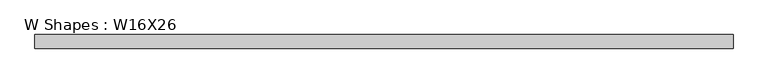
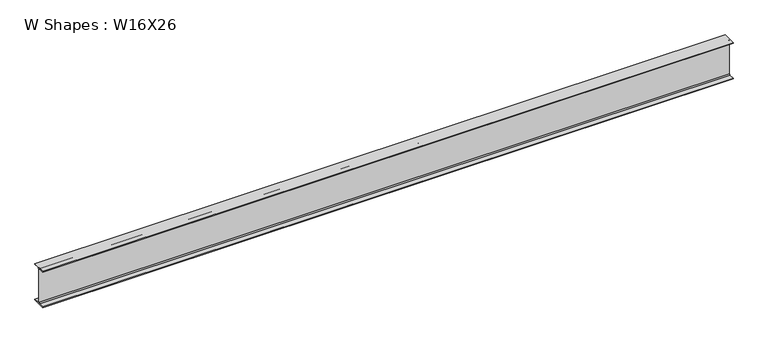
"""IFC4 building model written with IfcOpenShell, lengths in millimetres: beam geometry, W Shapes : W16X26."""

import ifcopenshell
import ifcopenshell.guid

model = None  # the IFC model being written
_history = None  # IfcOwnerHistory: only IFC2X3 demands one
_inside = {}  # id of a spatial element -> (the spatial element, [elements in it])
_under = {}  # id of a project, library or spatial element -> (it, [spatial elements below it])
_declared = {}  # id of a project -> (the project, [libraries it declares])
_typed = {}  # id of a type object -> (the type object, [elements of that type])
_made_of = {}  # id of a material, layer set ... -> (it, [elements and type objects made of it])


def new_model(schema):
    """Start an empty IFC model of exactly this schema.

    Asked for "IFC4X3", IfcOpenShell would pick the latest addendum, in which some entities
    have other attributes; the version numbers below select the first issue.
    IFC2X3 requires an IfcOwnerHistory on every rooted entity: one is made here for all.
    """
    global model, _history
    if schema == "IFC4X3":
        model = ifcopenshell.file(schema_version=(4, 3, 0, 0))
    else:
        model = ifcopenshell.file(schema=schema)
    _inside.clear()
    _under.clear()
    _declared.clear()
    _typed.clear()
    _made_of.clear()
    _history = None
    if model.schema == "IFC2X3":
        org = make("IfcOrganization", Name="unknown")
        user = make(
            "IfcPersonAndOrganization",
            ThePerson=make("IfcPerson", FamilyName="unknown"),
            TheOrganization=org,
        )
        app = make(
            "IfcApplication",
            ApplicationDeveloper=org,
            Version="unknown",
            ApplicationFullName="unknown",
            ApplicationIdentifier="unknown",
        )
        _history = make(
            "IfcOwnerHistory",
            OwningUser=user,
            OwningApplication=app,
            ChangeAction="ADDED",
            CreationDate=0,
        )
    return model


def make(cls, **values):
    """One entity of the class cls with the attributes given. An attribute that is None is left unset."""
    return model.create_entity(
        cls, **{name: value for name, value in values.items() if value is not None}
    )


def rooted(cls, **values):
    """An entity with a GlobalId (a new one), such as an element, a storey or a relation."""
    return make(cls, GlobalId=ifcopenshell.guid.new(), OwnerHistory=_history, **values)


def si_unit(unit_type, name, prefix=None):
    """IfcSIUnit, for example si_unit("LENGTHUNIT", "METRE", prefix="MILLI")."""
    return make("IfcSIUnit", UnitType=unit_type, Prefix=prefix, Name=name)


def assignment(units):
    """IfcUnitAssignment: the units of a project."""
    return None if units is None else make("IfcUnitAssignment", Units=units)


def point(xyz):
    """IfcCartesianPoint."""
    return None if xyz is None else make("IfcCartesianPoint", Coordinates=xyz)


def direction(xyz):
    """IfcDirection."""
    return None if xyz is None else make("IfcDirection", DirectionRatios=xyz)


def frame(location, z_axis=None, x_axis=None):
    """IfcAxis2Placement3D, a coordinate frame: its origin and axes. An axis left out is left unset."""
    return make(
        "IfcAxis2Placement3D",
        Location=point(location),
        Axis=direction(z_axis),
        RefDirection=direction(x_axis),
    )


def frame_2d(location, x_axis=None):
    """IfcAxis2Placement2D, a coordinate frame in the plane: its origin and x axis."""
    return make(
        "IfcAxis2Placement2D", Location=point(location), RefDirection=direction(x_axis)
    )


def origin():
    """The frame at (0, 0, 0) with its axes left unset."""
    return frame((0.0, 0.0, 0.0))


def place(relative_to, where):
    """IfcLocalPlacement: puts the frame where relative to a parent placement (None: the world)."""
    return make(
        "IfcLocalPlacement", PlacementRelTo=relative_to, RelativePlacement=where
    )


def context(
    kind, dimensions, precision=None, world=None, true_north=None, identifier=None
):
    """IfcGeometricRepresentationContext, for example the 3D "Model" context."""
    return make(
        "IfcGeometricRepresentationContext",
        ContextIdentifier=identifier,
        ContextType=kind,
        CoordinateSpaceDimension=dimensions,
        Precision=precision,
        WorldCoordinateSystem=world,
        TrueNorth=true_north,
    )


def project(units=None, contexts=None):
    """IfcProject with its units and contexts."""
    return rooted(
        "IfcProject",
        Name="project",
        RepresentationContexts=contexts,
        UnitsInContext=assignment(units),
    )


def spatial(cls, under=None, at=None, **own):
    """A site, building, storey or space (cls), placed at a placement, below another one or the project."""
    s = rooted(cls, ObjectPlacement=at, **own)
    if under is not None:
        _under.setdefault(under.id(), (under, []))[1].append(s)
    return s


def polyline(points):
    """IfcPolyline through the points."""
    return make("IfcPolyline", Points=[point(p) for p in points])


def circle_curve(where, radius):
    """IfcCircle in the frame where."""
    return make("IfcCircle", Position=where, Radius=radius)


def trimmed(basis, trim1, trim2, sense, master):
    """IfcTrimmedCurve: the piece of a basis curve between two trims."""
    return make(
        "IfcTrimmedCurve",
        BasisCurve=basis,
        Trim1=trim1,
        Trim2=trim2,
        SenseAgreement=sense,
        MasterRepresentation=master,
    )


def segment(curve, same_sense, transition):
    """IfcCompositeCurveSegment."""
    return make(
        "IfcCompositeCurveSegment",
        Transition=transition,
        SameSense=same_sense,
        ParentCurve=curve,
    )


def composite_curve(segments, self_intersect=None):
    """IfcCompositeCurve: segments joined end to end."""
    return make("IfcCompositeCurve", Segments=segments, SelfIntersect=self_intersect)


def outline(outer, holes=None, kind="AREA"):
    """IfcArbitraryClosedProfileDef: a profile drawn as a closed curve; with holes, ...WithVoids."""
    if holes is None:
        return make("IfcArbitraryClosedProfileDef", ProfileType=kind, OuterCurve=outer)
    return make(
        "IfcArbitraryProfileDefWithVoids",
        ProfileType=kind,
        OuterCurve=outer,
        InnerCurves=holes,
    )


def extrude(swept, where, along, depth):
    """IfcExtrudedAreaSolid: the profile swept, set in the frame where, extruded along a direction by depth."""
    return make(
        "IfcExtrudedAreaSolid",
        SweptArea=swept,
        Position=where,
        ExtrudedDirection=direction(along),
        Depth=depth,
    )


def shape(context_of_items, identifier, shape_type, items):
    """IfcShapeRepresentation: the items that make up one representation, for example the "Body"."""
    return make(
        "IfcShapeRepresentation",
        ContextOfItems=context_of_items,
        RepresentationIdentifier=identifier,
        RepresentationType=shape_type,
        Items=items,
    )


def source(mapping_origin, context_of_items, identifier, shape_type, items):
    """IfcRepresentationMap: a shape defined once, which mapped items show again and again."""
    return make(
        "IfcRepresentationMap",
        MappingOrigin=mapping_origin,
        MappedRepresentation=shape(context_of_items, identifier, shape_type, items),
    )


def transform(
    local_origin,
    x_axis=None,
    y_axis=None,
    z_axis=None,
    scale=None,
    scale2=None,
    scale3=None,
    uniform=True,
):
    """IfcCartesianTransformationOperator3D, or its non-uniform kind. x_axis, y_axis, z_axis: its Axis1, 2, 3."""
    if uniform:
        return make(
            "IfcCartesianTransformationOperator3D",
            Axis1=direction(x_axis),
            Axis2=direction(y_axis),
            LocalOrigin=point(local_origin),
            Scale=scale,
            Axis3=direction(z_axis),
        )
    return make(
        "IfcCartesianTransformationOperator3DnonUniform",
        Axis1=direction(x_axis),
        Axis2=direction(y_axis),
        LocalOrigin=point(local_origin),
        Scale=scale,
        Axis3=direction(z_axis),
        Scale2=scale2,
        Scale3=scale3,
    )


def mapped(mapping_source, mapping_target):
    """IfcMappedItem: shows the shape of a source again, moved by a transform."""
    return make(
        "IfcMappedItem", MappingSource=mapping_source, MappingTarget=mapping_target
    )


def made_of(thing, what):
    """Note that an element or type object is made of a material, layer set ...; save() writes the relation."""
    if what is not None:
        _made_of.setdefault(what.id(), (what, []))[1].append(thing)
    return thing


def element(
    cls,
    number,
    at=None,
    inside=None,
    cuts=None,
    type_object=None,
    material=None,
    context=None,
    identifier="Body",
    shape_type=None,
    held_by="IfcProductDefinitionShape",
    body=None,
    shapes=None,
    **own,
):
    """One element of the class cls, such as IfcWall. Its Tag is "e" and its number.

    at: its placement. inside: the storey or other place that contains it. cuts: it is an
    opening in that element (IfcRelVoidsElement). A single representation is given by context,
    identifier, shape_type and body (its items); several are given by shapes. held_by: the class
    of the entity that holds the representations. save() writes the other relations.
    """
    e = rooted(cls, Tag="e%d" % number, ObjectPlacement=at, **own)
    if body is not None:
        shapes = [shape(context, identifier, shape_type, body)]
    if shapes is not None:
        e.Representation = make(held_by, Representations=shapes)
    if inside is not None:
        _inside.setdefault(inside.id(), (inside, []))[1].append(e)
    if cuts is not None:
        rooted(
            "IfcRelVoidsElement", RelatingBuildingElement=cuts, RelatedOpeningElement=e
        )
    if type_object is not None:
        _typed.setdefault(type_object.id(), (type_object, []))[1].append(e)
    return made_of(e, material)


def aggregate(whole, parts):
    """IfcRelAggregates: a whole, such as a stair, and the parts it consists of."""
    return rooted("IfcRelAggregates", RelatingObject=whole, RelatedObjects=parts)


def save(model, path):
    """Write the relations noted so far, then the file.

    IfcRelAggregates (storeys below a building ...), IfcRelContainedInSpatialStructure (elements
    in a storey), IfcRelDefinesByType, IfcRelAssociatesMaterial and IfcRelDeclares: one each for
    every whole, place, type object, material and project.
    """
    for whole, parts in _under.values():
        aggregate(whole, parts)
    for where, things in _inside.values():
        rooted(
            "IfcRelContainedInSpatialStructure",
            RelatedElements=things,
            RelatingStructure=where,
        )
    for kind, things in _typed.values():
        rooted("IfcRelDefinesByType", RelatedObjects=things, RelatingType=kind)
    for what, things in _made_of.values():
        rooted("IfcRelAssociatesMaterial", RelatedObjects=things, RelatingMaterial=what)
    for by, libraries in _declared.values():
        rooted("IfcRelDeclares", RelatingContext=by, RelatedDefinitions=libraries)
    model.write(path)


def w_shapes_w16x26_bd6dae71(model_context):
    return source(origin(), model_context, "Body", "SweptSolid", [
        extrude(outline(composite_curve([segment(polyline([(69.85, -190.627), (69.85, -199.39), (-69.85, -199.39), (-69.85, -190.627), (-13.3858, -190.627)]), True, "CONTINUOUS"), segment(trimmed(circle_curve(frame_2d((-13.3858, -180.4162)), 10.2108), [point((-13.3858, -190.627))], [point((-3.175, -180.4162))], True, "CARTESIAN"), True, "CONTINUOUS"), segment(polyline([(-3.175, -180.4162), (-3.175, 180.4162)]), True, "CONTINUOUS"), segment(trimmed(circle_curve(frame_2d((-13.3858, 180.4162)), 10.2108), [point((-3.175, 180.4162))], [point((-13.3858, 190.627))], True, "CARTESIAN"), True, "CONTINUOUS"), segment(polyline([(-13.3858, 190.627), (-69.85, 190.627), (-69.85, 199.39), (69.85, 199.39), (69.85, 190.627), (13.3858, 190.627)]), True, "CONTINUOUS"), segment(trimmed(circle_curve(frame_2d((13.3858, 180.4162)), 10.2108), [point((13.3858, 190.627))], [point((3.175, 180.4162))], True, "CARTESIAN"), True, "CONTINUOUS"), segment(polyline([(3.175, 180.4162), (3.175, -180.4162)]), True, "CONTINUOUS"), segment(trimmed(circle_curve(frame_2d((13.3858, -180.4162)), 10.2108), [point((3.175, -180.4162))], [point((13.3858, -190.627))], True, "CARTESIAN"), True, "CONTINUOUS"), segment(polyline([(13.3858, -190.627), (69.85, -190.627)]), True, "CONTINUOUS")], self_intersect=False)), frame((-3581.4, 0.0, 0.0), z_axis=(1.0, 0.0, 0.0), x_axis=(0.0, 1.0, 0.0)), (0.0, 0.0, 1.0), 7166.229),
    ])


if __name__ == "__main__":
    model = new_model("IFC4")
    model_context = context("Model", 3, world=origin())
    ifc_project = project(units=[si_unit("LENGTHUNIT", "METRE", prefix="MILLI")], contexts=[model_context])
    site = spatial("IfcSite", under=ifc_project)
    building = spatial("IfcBuilding", under=site)
    placement = place(None, origin())
    w_shapes_w16x26_shape = w_shapes_w16x26_bd6dae71(model_context)
    element("IfcBeam", 1, ObjectType="W Shapes : W16X26", at=placement, inside=building, context=model_context, shape_type="MappedRepresentation", body=[
        mapped(w_shapes_w16x26_shape, transform((0.0, 0.0, 0.0), x_axis=(1.0, 0.0, 0.0), y_axis=(0.0, 1.0, 0.0), z_axis=(0.0, 0.0, 1.0))),
    ])
    save(model, "model.ifc")
